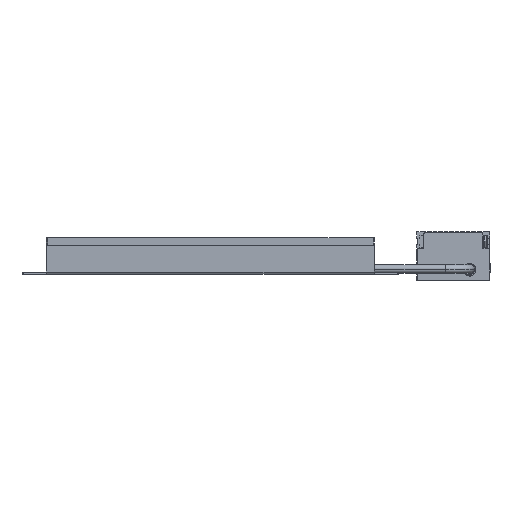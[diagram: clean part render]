
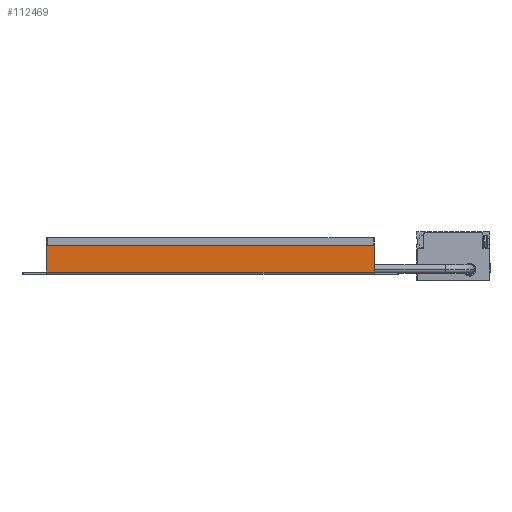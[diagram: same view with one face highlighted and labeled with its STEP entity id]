
A CAD part, left-side view. The second image highlights one B-rep face of the part: STEP entity #112469.
In plain terms, the highlighted planar face has unit normal (-1, 0, 0).
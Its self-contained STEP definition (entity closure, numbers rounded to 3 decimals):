
#9293 = EDGE_CURVE ( 'NONE', #24655, #24569, #14907, .T. ) ;
#9295 = EDGE_CURVE ( 'NONE', #24647, #24548, #14933, .T. ) ;
#9325 = EDGE_CURVE ( 'NONE', #24655, #24647, #14979, .T. ) ;
#9516 = EDGE_CURVE ( 'NONE', #24569, #24548, #15334, .T. ) ;
#14907 = LINE ( 'NONE', #14947, #74821 ) ;
#14908 = DIRECTION ( 'NONE',  ( 0., 0., -1. ) ) ;
#14928 = CARTESIAN_POINT ( 'NONE',  ( -61.5, -67., 12. ) ) ;
#14929 = DIRECTION ( 'NONE',  ( 0., 0., -1. ) ) ;
#14933 = LINE ( 'NONE', #14928, #74819 ) ;
#14947 = CARTESIAN_POINT ( 'NONE',  ( -61.5, 67., 12. ) ) ;
#14979 = LINE ( 'NONE', #14982, #74906 ) ;
#14982 = CARTESIAN_POINT ( 'NONE',  ( -61.5, 67., 12. ) ) ;
#15022 = DIRECTION ( 'NONE',  ( 0., -1., 0. ) ) ;
#15331 = CARTESIAN_POINT ( 'NONE',  ( -61.5, 67., 1. ) ) ;
#15334 = LINE ( 'NONE', #15331, #75225 ) ;
#15341 = DIRECTION ( 'NONE',  ( 0., -1., 0. ) ) ;
#20269 = CARTESIAN_POINT ( 'NONE',  ( -61.5, 67., 1. ) ) ;
#20285 = CARTESIAN_POINT ( 'NONE',  ( -61.5, -67., 1. ) ) ;
#20367 = CARTESIAN_POINT ( 'NONE',  ( -61.5, 67., 12. ) ) ;
#20379 = CARTESIAN_POINT ( 'NONE',  ( -61.5, -67., 12. ) ) ;
#24548 = VERTEX_POINT ( 'NONE', #20285 ) ;
#24569 = VERTEX_POINT ( 'NONE', #20269 ) ;
#24647 = VERTEX_POINT ( 'NONE', #20379 ) ;
#24655 = VERTEX_POINT ( 'NONE', #20367 ) ;
#51195 = DIRECTION ( 'NONE',  ( 1., 0., 0. ) ) ;
#51196 = PLANE ( 'NONE',  #115400 ) ;
#51198 = DIRECTION ( 'NONE',  ( 0., 1., 0. ) ) ;
#51245 = CARTESIAN_POINT ( 'NONE',  ( -61.5, 67., 12. ) ) ;
#51247 = FACE_OUTER_BOUND ( 'NONE', #135538, .T. ) ;
#74819 = VECTOR ( 'NONE', #14929, 1000. ) ;
#74821 = VECTOR ( 'NONE', #14908, 1000. ) ;
#74906 = VECTOR ( 'NONE', #15022, 1000. ) ;
#75225 = VECTOR ( 'NONE', #15341, 1000. ) ;
#112469 = ADVANCED_FACE ( 'NONE', ( #51247 ), #51196, .F. ) ;
#115400 = AXIS2_PLACEMENT_3D ( 'NONE', #51245, #51195, #51198 ) ;
#135538 = EDGE_LOOP ( 'NONE', ( #141650, #141653, #141634, #141640 ) ) ;
#141634 = ORIENTED_EDGE ( 'NONE', *, *, #9295, .F. ) ;
#141640 = ORIENTED_EDGE ( 'NONE', *, *, #9325, .F. ) ;
#141650 = ORIENTED_EDGE ( 'NONE', *, *, #9293, .T. ) ;
#141653 = ORIENTED_EDGE ( 'NONE', *, *, #9516, .T. ) ;
